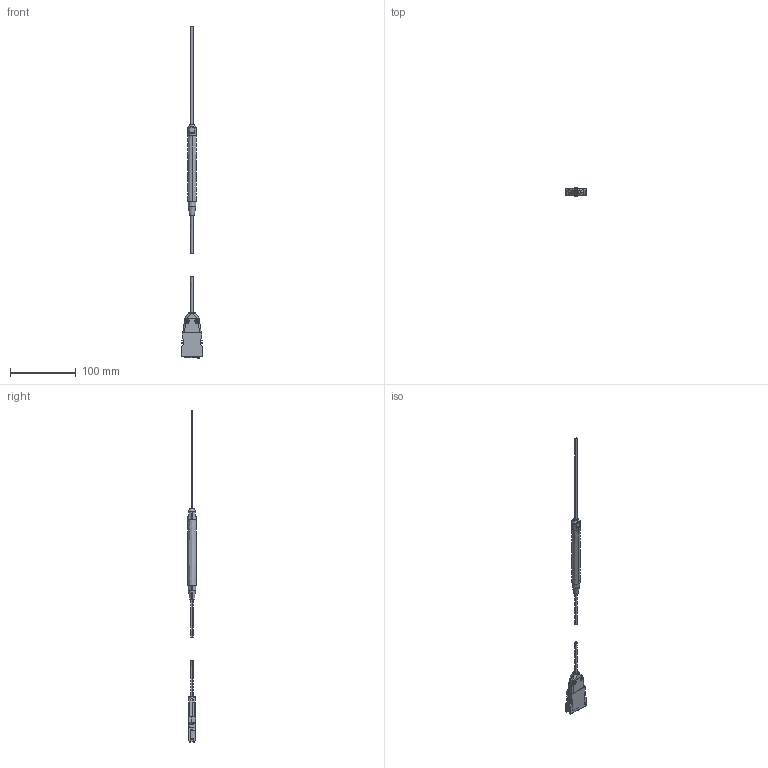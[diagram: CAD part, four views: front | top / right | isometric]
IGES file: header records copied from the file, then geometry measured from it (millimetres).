
Start section: SolidWorks IGES file using NURBS representation for surfaces
Global section: file name: C:\Users\jeremy.bluestein\Desktop\Parts sent for fab\Probe marketing models\FP-2X-250-TS15.IGS; native system: SolidWorks 2017; preprocessor: SolidWorks 2017; author: jeremy.bluestein; date: 180510.165246; units: millimetre
Bounding box: 33.27 x 13 x 504.53 mm (x, y, z)
Volume: 36177.1 mm3; surface area: 17470.7 mm2
Topology: 2 solids, 2 shells, 797 faces, 4402 edges, 5785 vertices
Faces by surface type: bspline 797
